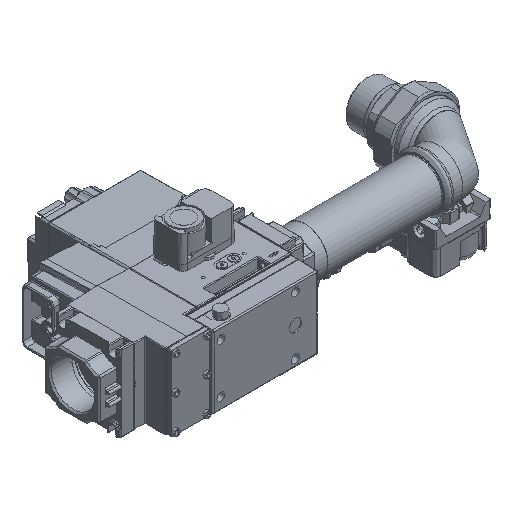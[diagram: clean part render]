
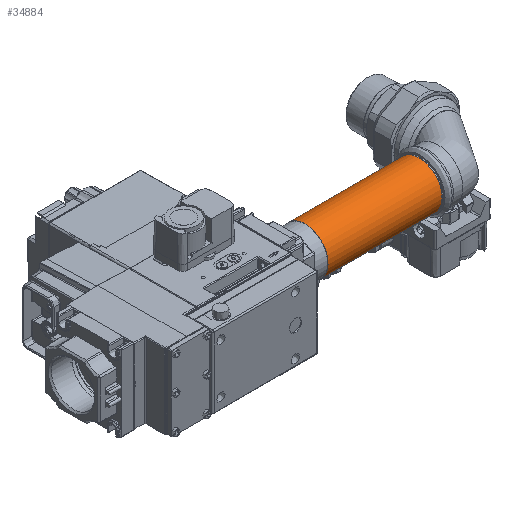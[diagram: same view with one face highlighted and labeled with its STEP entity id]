
A CAD part, isometric view. The second image highlights one B-rep face of the part: STEP entity #34884.
In plain terms, the highlighted cylindrical face has radius 30.15 mm (diameter 60.3 mm), a full revolution.
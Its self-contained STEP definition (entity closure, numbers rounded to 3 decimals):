
#4631 = EDGE_LOOP ( 'NONE', ( #108919 ) ) ;
#8975 = ORIENTED_EDGE ( 'NONE', *, *, #173878, .F. ) ;
#23335 = CARTESIAN_POINT ( 'NONE',  ( 270., 43., 0. ) ) ;
#25878 = DIRECTION ( 'NONE',  ( 0., 0.299, 0.954 ) ) ;
#26343 = VERTEX_POINT ( 'NONE', #80026 ) ;
#34884 = ADVANCED_FACE ( 'NONE', ( #151897, #127294 ), #153733, .T. ) ;
#40648 = DIRECTION ( 'NONE',  ( -1., 0., 0. ) ) ;
#54775 = CARTESIAN_POINT ( 'NONE',  ( 120., 43., 0. ) ) ;
#67081 = DIRECTION ( 'NONE',  ( 0., 0.299, 0.954 ) ) ;
#71934 = CARTESIAN_POINT ( 'NONE',  ( 270., 52.018, 28.77 ) ) ;
#78846 = DIRECTION ( 'NONE',  ( 0., 0.299, 0.954 ) ) ;
#80026 = CARTESIAN_POINT ( 'NONE',  ( 120., 52.018, 28.77 ) ) ;
#89358 = EDGE_CURVE ( 'NONE', #116047, #116047, #146957, .T. ) ;
#106051 = DIRECTION ( 'NONE',  ( -1., 0., 0. ) ) ;
#107826 = AXIS2_PLACEMENT_3D ( 'NONE', #23335, #106051, #78846 ) ;
#108919 = ORIENTED_EDGE ( 'NONE', *, *, #89358, .T. ) ;
#116047 = VERTEX_POINT ( 'NONE', #71934 ) ;
#121063 = CIRCLE ( 'NONE', #181095, 30.15 ) ;
#123619 = CARTESIAN_POINT ( 'NONE',  ( 295., 43., 0. ) ) ;
#124047 = AXIS2_PLACEMENT_3D ( 'NONE', #123619, #166914, #25878 ) ;
#127294 = FACE_OUTER_BOUND ( 'NONE', #162369, .T. ) ;
#146957 = CIRCLE ( 'NONE', #107826, 30.15 ) ;
#151897 = FACE_OUTER_BOUND ( 'NONE', #4631, .T. ) ;
#153733 = CYLINDRICAL_SURFACE ( 'NONE', #124047, 30.15 ) ;
#162369 = EDGE_LOOP ( 'NONE', ( #8975 ) ) ;
#166914 = DIRECTION ( 'NONE',  ( -1., 0., 0. ) ) ;
#173878 = EDGE_CURVE ( 'NONE', #26343, #26343, #121063, .T. ) ;
#181095 = AXIS2_PLACEMENT_3D ( 'NONE', #54775, #40648, #67081 ) ;
